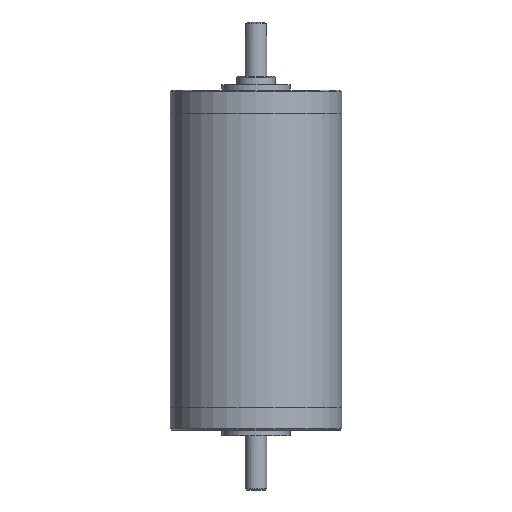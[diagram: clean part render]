
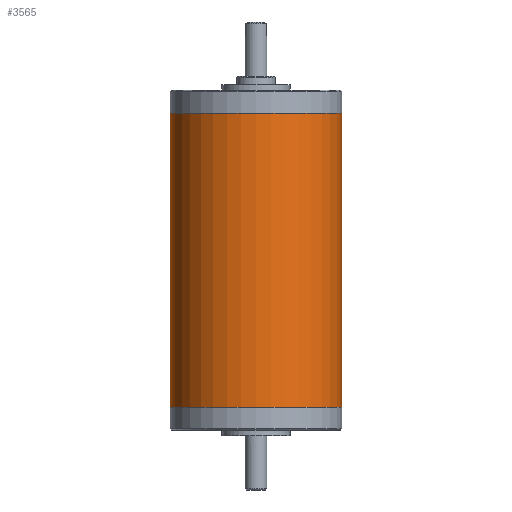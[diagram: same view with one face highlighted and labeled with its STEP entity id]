
A CAD part, front view. The second image highlights one B-rep face of the part: STEP entity #3565.
In plain terms, the highlighted cylindrical face has radius 31.5 mm (diameter 63 mm), a partial arc.
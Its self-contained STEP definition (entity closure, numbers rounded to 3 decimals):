
#390 = DIRECTION ( 'NONE',  ( 1., 0., 0. ) ) ;
#1148 = VERTEX_POINT ( 'NONE', #20731 ) ;
#1245 = DIRECTION ( 'NONE',  ( 1., 0., 0. ) ) ;
#1796 = CARTESIAN_POINT ( 'NONE',  ( 31.5, 0., -8.5 ) ) ;
#2557 = DIRECTION ( 'NONE',  ( 0., 0., 1. ) ) ;
#3254 = VERTEX_POINT ( 'NONE', #8924 ) ;
#3565 = ADVANCED_FACE ( 'NONE', ( #16320 ), #23727, .T. ) ;
#4118 = ORIENTED_EDGE ( 'NONE', *, *, #17381, .T. ) ;
#4480 = ORIENTED_EDGE ( 'NONE', *, *, #11112, .F. ) ;
#5069 = DIRECTION ( 'NONE',  ( 0., 0., 1. ) ) ;
#5614 = CARTESIAN_POINT ( 'NONE',  ( 0., 0., -116.5 ) ) ;
#6847 = CARTESIAN_POINT ( 'NONE',  ( 0., 0., -8.5 ) ) ;
#7580 = DIRECTION ( 'NONE',  ( 0., 0., 1. ) ) ;
#7942 = VERTEX_POINT ( 'NONE', #1796 ) ;
#8924 = CARTESIAN_POINT ( 'NONE',  ( 31.5, 0., -116.5 ) ) ;
#9481 = CARTESIAN_POINT ( 'NONE',  ( -31.5, 0., -116.5 ) ) ;
#9583 = CARTESIAN_POINT ( 'NONE',  ( 0., 0., -116.5 ) ) ;
#9609 = DIRECTION ( 'NONE',  ( 0., 0., 1. ) ) ;
#9796 = VECTOR ( 'NONE', #9609, 1000. ) ;
#9940 = AXIS2_PLACEMENT_3D ( 'NONE', #9583, #2557, #20726 ) ;
#10356 = CIRCLE ( 'NONE', #9940, 31.5 ) ;
#10846 = ORIENTED_EDGE ( 'NONE', *, *, #10931, .F. ) ;
#10931 = EDGE_CURVE ( 'NONE', #14513, #7942, #18089, .T. ) ;
#10951 = DIRECTION ( 'NONE',  ( 0., 0., 1. ) ) ;
#11112 = EDGE_CURVE ( 'NONE', #1148, #14513, #18841, .T. ) ;
#11357 = CARTESIAN_POINT ( 'NONE',  ( -31.5, 0., -8.5 ) ) ;
#14357 = LINE ( 'NONE', #21797, #21393 ) ;
#14513 = VERTEX_POINT ( 'NONE', #11357 ) ;
#14806 = EDGE_LOOP ( 'NONE', ( #4480, #24076, #4118, #10846 ) ) ;
#15785 = EDGE_CURVE ( 'NONE', #1148, #3254, #10356, .T. ) ;
#15858 = AXIS2_PLACEMENT_3D ( 'NONE', #5614, #7580, #390 ) ;
#16320 = FACE_OUTER_BOUND ( 'NONE', #14806, .T. ) ;
#17381 = EDGE_CURVE ( 'NONE', #3254, #7942, #14357, .T. ) ;
#18089 = CIRCLE ( 'NONE', #22718, 31.5 ) ;
#18841 = LINE ( 'NONE', #9481, #9796 ) ;
#20726 = DIRECTION ( 'NONE',  ( 1., 0., 0. ) ) ;
#20731 = CARTESIAN_POINT ( 'NONE',  ( -31.5, 0., -116.5 ) ) ;
#21393 = VECTOR ( 'NONE', #5069, 1000. ) ;
#21797 = CARTESIAN_POINT ( 'NONE',  ( 31.5, 0., -116.5 ) ) ;
#22718 = AXIS2_PLACEMENT_3D ( 'NONE', #6847, #10951, #1245 ) ;
#23727 = CYLINDRICAL_SURFACE ( 'NONE', #15858, 31.5 ) ;
#24076 = ORIENTED_EDGE ( 'NONE', *, *, #15785, .T. ) ;
